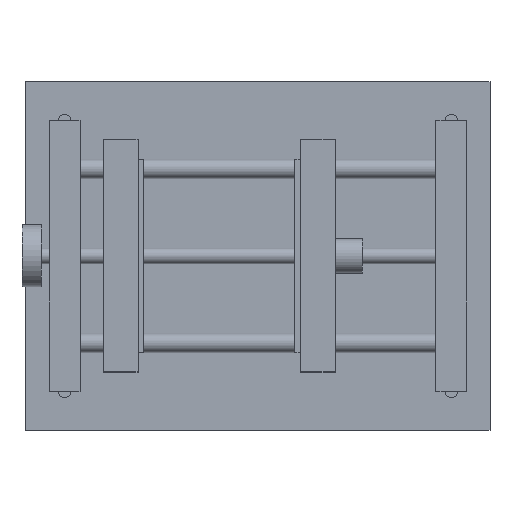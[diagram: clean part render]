
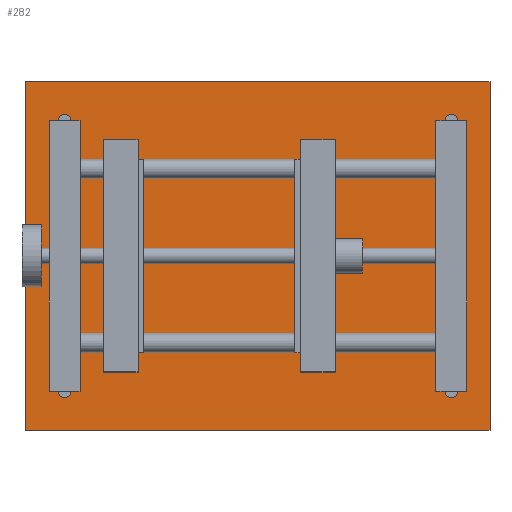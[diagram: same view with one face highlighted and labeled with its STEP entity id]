
A CAD part, top view. The second image highlights one B-rep face of the part: STEP entity #282.
In plain terms, the highlighted planar face has unit normal (0, 0, 1).
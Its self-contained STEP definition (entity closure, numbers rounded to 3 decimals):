
#93 = VERTEX_POINT('',#94);
#94 = CARTESIAN_POINT('',(0.,0.,10.));
#101 = PLANE('',#102);
#102 = AXIS2_PLACEMENT_3D('',#103,#104,#105);
#103 = CARTESIAN_POINT('',(0.,0.,0.));
#104 = DIRECTION('',(1.,0.,-0.));
#105 = DIRECTION('',(0.,0.,1.));
#113 = PLANE('',#114);
#114 = AXIS2_PLACEMENT_3D('',#115,#116,#117);
#115 = CARTESIAN_POINT('',(0.,0.,0.));
#116 = DIRECTION('',(-0.,1.,0.));
#117 = DIRECTION('',(0.,0.,1.));
#154 = VERTEX_POINT('',#155);
#155 = CARTESIAN_POINT('',(0.,180.,10.));
#169 = PLANE('',#170);
#170 = AXIS2_PLACEMENT_3D('',#171,#172,#173);
#171 = CARTESIAN_POINT('',(0.,180.,0.));
#172 = DIRECTION('',(-0.,1.,0.));
#173 = DIRECTION('',(0.,0.,1.));
#181 = EDGE_CURVE('',#93,#154,#182,.T.);
#182 = SURFACE_CURVE('',#183,(#187,#194),.PCURVE_S1.);
#183 = LINE('',#184,#185);
#184 = CARTESIAN_POINT('',(0.,0.,10.));
#185 = VECTOR('',#186,1.);
#186 = DIRECTION('',(-0.,1.,0.));
#187 = PCURVE('',#101,#188);
#188 = DEFINITIONAL_REPRESENTATION('',(#189),#193);
#189 = LINE('',#190,#191);
#190 = CARTESIAN_POINT('',(10.,0.));
#191 = VECTOR('',#192,1.);
#192 = DIRECTION('',(0.,-1.));
#193 = ( GEOMETRIC_REPRESENTATION_CONTEXT(2) 
PARAMETRIC_REPRESENTATION_CONTEXT() REPRESENTATION_CONTEXT('2D SPACE',''
  ) );
#194 = PCURVE('',#195,#200);
#195 = PLANE('',#196);
#196 = AXIS2_PLACEMENT_3D('',#197,#198,#199);
#197 = CARTESIAN_POINT('',(0.,0.,10.));
#198 = DIRECTION('',(0.,0.,1.));
#199 = DIRECTION('',(1.,0.,-0.));
#200 = DEFINITIONAL_REPRESENTATION('',(#201),#205);
#201 = LINE('',#202,#203);
#202 = CARTESIAN_POINT('',(0.,0.));
#203 = VECTOR('',#204,1.);
#204 = DIRECTION('',(0.,1.));
#205 = ( GEOMETRIC_REPRESENTATION_CONTEXT(2) 
PARAMETRIC_REPRESENTATION_CONTEXT() REPRESENTATION_CONTEXT('2D SPACE',''
  ) );
#234 = EDGE_CURVE('',#93,#235,#237,.T.);
#235 = VERTEX_POINT('',#236);
#236 = CARTESIAN_POINT('',(240.,0.,10.));
#237 = SURFACE_CURVE('',#238,(#242,#249),.PCURVE_S1.);
#238 = LINE('',#239,#240);
#239 = CARTESIAN_POINT('',(0.,0.,10.));
#240 = VECTOR('',#241,1.);
#241 = DIRECTION('',(1.,0.,-0.));
#242 = PCURVE('',#113,#243);
#243 = DEFINITIONAL_REPRESENTATION('',(#244),#248);
#244 = LINE('',#245,#246);
#245 = CARTESIAN_POINT('',(10.,0.));
#246 = VECTOR('',#247,1.);
#247 = DIRECTION('',(0.,1.));
#248 = ( GEOMETRIC_REPRESENTATION_CONTEXT(2) 
PARAMETRIC_REPRESENTATION_CONTEXT() REPRESENTATION_CONTEXT('2D SPACE',''
  ) );
#249 = PCURVE('',#195,#250);
#250 = DEFINITIONAL_REPRESENTATION('',(#251),#255);
#251 = LINE('',#252,#253);
#252 = CARTESIAN_POINT('',(0.,0.));
#253 = VECTOR('',#254,1.);
#254 = DIRECTION('',(1.,0.));
#255 = ( GEOMETRIC_REPRESENTATION_CONTEXT(2) 
PARAMETRIC_REPRESENTATION_CONTEXT() REPRESENTATION_CONTEXT('2D SPACE',''
  ) );
#271 = PLANE('',#272);
#272 = AXIS2_PLACEMENT_3D('',#273,#274,#275);
#273 = CARTESIAN_POINT('',(240.,0.,0.));
#274 = DIRECTION('',(1.,0.,-0.));
#275 = DIRECTION('',(0.,0.,1.));
#282 = ADVANCED_FACE('',(#283,#331,#362,#393,#424),#195,.T.);
#283 = FACE_BOUND('',#284,.T.);
#284 = EDGE_LOOP('',(#285,#286,#287,#310));
#285 = ORIENTED_EDGE('',*,*,#181,.F.);
#286 = ORIENTED_EDGE('',*,*,#234,.T.);
#287 = ORIENTED_EDGE('',*,*,#288,.T.);
#288 = EDGE_CURVE('',#235,#289,#291,.T.);
#289 = VERTEX_POINT('',#290);
#290 = CARTESIAN_POINT('',(240.,180.,10.));
#291 = SURFACE_CURVE('',#292,(#296,#303),.PCURVE_S1.);
#292 = LINE('',#293,#294);
#293 = CARTESIAN_POINT('',(240.,0.,10.));
#294 = VECTOR('',#295,1.);
#295 = DIRECTION('',(-0.,1.,0.));
#296 = PCURVE('',#195,#297);
#297 = DEFINITIONAL_REPRESENTATION('',(#298),#302);
#298 = LINE('',#299,#300);
#299 = CARTESIAN_POINT('',(240.,0.));
#300 = VECTOR('',#301,1.);
#301 = DIRECTION('',(0.,1.));
#302 = ( GEOMETRIC_REPRESENTATION_CONTEXT(2) 
PARAMETRIC_REPRESENTATION_CONTEXT() REPRESENTATION_CONTEXT('2D SPACE',''
  ) );
#303 = PCURVE('',#271,#304);
#304 = DEFINITIONAL_REPRESENTATION('',(#305),#309);
#305 = LINE('',#306,#307);
#306 = CARTESIAN_POINT('',(10.,0.));
#307 = VECTOR('',#308,1.);
#308 = DIRECTION('',(0.,-1.));
#309 = ( GEOMETRIC_REPRESENTATION_CONTEXT(2) 
PARAMETRIC_REPRESENTATION_CONTEXT() REPRESENTATION_CONTEXT('2D SPACE',''
  ) );
#310 = ORIENTED_EDGE('',*,*,#311,.F.);
#311 = EDGE_CURVE('',#154,#289,#312,.T.);
#312 = SURFACE_CURVE('',#313,(#317,#324),.PCURVE_S1.);
#313 = LINE('',#314,#315);
#314 = CARTESIAN_POINT('',(0.,180.,10.));
#315 = VECTOR('',#316,1.);
#316 = DIRECTION('',(1.,0.,-0.));
#317 = PCURVE('',#195,#318);
#318 = DEFINITIONAL_REPRESENTATION('',(#319),#323);
#319 = LINE('',#320,#321);
#320 = CARTESIAN_POINT('',(0.,180.));
#321 = VECTOR('',#322,1.);
#322 = DIRECTION('',(1.,0.));
#323 = ( GEOMETRIC_REPRESENTATION_CONTEXT(2) 
PARAMETRIC_REPRESENTATION_CONTEXT() REPRESENTATION_CONTEXT('2D SPACE',''
  ) );
#324 = PCURVE('',#169,#325);
#325 = DEFINITIONAL_REPRESENTATION('',(#326),#330);
#326 = LINE('',#327,#328);
#327 = CARTESIAN_POINT('',(10.,0.));
#328 = VECTOR('',#329,1.);
#329 = DIRECTION('',(0.,1.));
#330 = ( GEOMETRIC_REPRESENTATION_CONTEXT(2) 
PARAMETRIC_REPRESENTATION_CONTEXT() REPRESENTATION_CONTEXT('2D SPACE',''
  ) );
#331 = FACE_BOUND('',#332,.T.);
#332 = EDGE_LOOP('',(#333));
#333 = ORIENTED_EDGE('',*,*,#334,.F.);
#334 = EDGE_CURVE('',#335,#335,#337,.T.);
#335 = VERTEX_POINT('',#336);
#336 = CARTESIAN_POINT('',(23.3,20.,10.));
#337 = SURFACE_CURVE('',#338,(#343,#350),.PCURVE_S1.);
#338 = CIRCLE('',#339,3.3);
#339 = AXIS2_PLACEMENT_3D('',#340,#341,#342);
#340 = CARTESIAN_POINT('',(20.,20.,10.));
#341 = DIRECTION('',(0.,0.,1.));
#342 = DIRECTION('',(1.,0.,-0.));
#343 = PCURVE('',#195,#344);
#344 = DEFINITIONAL_REPRESENTATION('',(#345),#349);
#345 = CIRCLE('',#346,3.3);
#346 = AXIS2_PLACEMENT_2D('',#347,#348);
#347 = CARTESIAN_POINT('',(20.,20.));
#348 = DIRECTION('',(1.,0.));
#349 = ( GEOMETRIC_REPRESENTATION_CONTEXT(2) 
PARAMETRIC_REPRESENTATION_CONTEXT() REPRESENTATION_CONTEXT('2D SPACE',''
  ) );
#350 = PCURVE('',#351,#356);
#351 = CYLINDRICAL_SURFACE('',#352,3.3);
#352 = AXIS2_PLACEMENT_3D('',#353,#354,#355);
#353 = CARTESIAN_POINT('',(20.,20.,-1.));
#354 = DIRECTION('',(0.,0.,1.));
#355 = DIRECTION('',(1.,0.,-0.));
#356 = DEFINITIONAL_REPRESENTATION('',(#357),#361);
#357 = LINE('',#358,#359);
#358 = CARTESIAN_POINT('',(0.,11.));
#359 = VECTOR('',#360,1.);
#360 = DIRECTION('',(1.,0.));
#361 = ( GEOMETRIC_REPRESENTATION_CONTEXT(2) 
PARAMETRIC_REPRESENTATION_CONTEXT() REPRESENTATION_CONTEXT('2D SPACE',''
  ) );
#362 = FACE_BOUND('',#363,.T.);
#363 = EDGE_LOOP('',(#364));
#364 = ORIENTED_EDGE('',*,*,#365,.F.);
#365 = EDGE_CURVE('',#366,#366,#368,.T.);
#366 = VERTEX_POINT('',#367);
#367 = CARTESIAN_POINT('',(223.3,20.,10.));
#368 = SURFACE_CURVE('',#369,(#374,#381),.PCURVE_S1.);
#369 = CIRCLE('',#370,3.3);
#370 = AXIS2_PLACEMENT_3D('',#371,#372,#373);
#371 = CARTESIAN_POINT('',(220.,20.,10.));
#372 = DIRECTION('',(0.,0.,1.));
#373 = DIRECTION('',(1.,0.,-0.));
#374 = PCURVE('',#195,#375);
#375 = DEFINITIONAL_REPRESENTATION('',(#376),#380);
#376 = CIRCLE('',#377,3.3);
#377 = AXIS2_PLACEMENT_2D('',#378,#379);
#378 = CARTESIAN_POINT('',(220.,20.));
#379 = DIRECTION('',(1.,0.));
#380 = ( GEOMETRIC_REPRESENTATION_CONTEXT(2) 
PARAMETRIC_REPRESENTATION_CONTEXT() REPRESENTATION_CONTEXT('2D SPACE',''
  ) );
#381 = PCURVE('',#382,#387);
#382 = CYLINDRICAL_SURFACE('',#383,3.3);
#383 = AXIS2_PLACEMENT_3D('',#384,#385,#386);
#384 = CARTESIAN_POINT('',(220.,20.,-1.));
#385 = DIRECTION('',(0.,0.,1.));
#386 = DIRECTION('',(1.,0.,-0.));
#387 = DEFINITIONAL_REPRESENTATION('',(#388),#392);
#388 = LINE('',#389,#390);
#389 = CARTESIAN_POINT('',(0.,11.));
#390 = VECTOR('',#391,1.);
#391 = DIRECTION('',(1.,0.));
#392 = ( GEOMETRIC_REPRESENTATION_CONTEXT(2) 
PARAMETRIC_REPRESENTATION_CONTEXT() REPRESENTATION_CONTEXT('2D SPACE',''
  ) );
#393 = FACE_BOUND('',#394,.T.);
#394 = EDGE_LOOP('',(#395));
#395 = ORIENTED_EDGE('',*,*,#396,.F.);
#396 = EDGE_CURVE('',#397,#397,#399,.T.);
#397 = VERTEX_POINT('',#398);
#398 = CARTESIAN_POINT('',(23.3,160.,10.));
#399 = SURFACE_CURVE('',#400,(#405,#412),.PCURVE_S1.);
#400 = CIRCLE('',#401,3.3);
#401 = AXIS2_PLACEMENT_3D('',#402,#403,#404);
#402 = CARTESIAN_POINT('',(20.,160.,10.));
#403 = DIRECTION('',(0.,0.,1.));
#404 = DIRECTION('',(1.,0.,-0.));
#405 = PCURVE('',#195,#406);
#406 = DEFINITIONAL_REPRESENTATION('',(#407),#411);
#407 = CIRCLE('',#408,3.3);
#408 = AXIS2_PLACEMENT_2D('',#409,#410);
#409 = CARTESIAN_POINT('',(20.,160.));
#410 = DIRECTION('',(1.,0.));
#411 = ( GEOMETRIC_REPRESENTATION_CONTEXT(2) 
PARAMETRIC_REPRESENTATION_CONTEXT() REPRESENTATION_CONTEXT('2D SPACE',''
  ) );
#412 = PCURVE('',#413,#418);
#413 = CYLINDRICAL_SURFACE('',#414,3.3);
#414 = AXIS2_PLACEMENT_3D('',#415,#416,#417);
#415 = CARTESIAN_POINT('',(20.,160.,-1.));
#416 = DIRECTION('',(0.,0.,1.));
#417 = DIRECTION('',(1.,0.,-0.));
#418 = DEFINITIONAL_REPRESENTATION('',(#419),#423);
#419 = LINE('',#420,#421);
#420 = CARTESIAN_POINT('',(0.,11.));
#421 = VECTOR('',#422,1.);
#422 = DIRECTION('',(1.,0.));
#423 = ( GEOMETRIC_REPRESENTATION_CONTEXT(2) 
PARAMETRIC_REPRESENTATION_CONTEXT() REPRESENTATION_CONTEXT('2D SPACE',''
  ) );
#424 = FACE_BOUND('',#425,.T.);
#425 = EDGE_LOOP('',(#426));
#426 = ORIENTED_EDGE('',*,*,#427,.F.);
#427 = EDGE_CURVE('',#428,#428,#430,.T.);
#428 = VERTEX_POINT('',#429);
#429 = CARTESIAN_POINT('',(223.3,160.,10.));
#430 = SURFACE_CURVE('',#431,(#436,#443),.PCURVE_S1.);
#431 = CIRCLE('',#432,3.3);
#432 = AXIS2_PLACEMENT_3D('',#433,#434,#435);
#433 = CARTESIAN_POINT('',(220.,160.,10.));
#434 = DIRECTION('',(0.,0.,1.));
#435 = DIRECTION('',(1.,0.,-0.));
#436 = PCURVE('',#195,#437);
#437 = DEFINITIONAL_REPRESENTATION('',(#438),#442);
#438 = CIRCLE('',#439,3.3);
#439 = AXIS2_PLACEMENT_2D('',#440,#441);
#440 = CARTESIAN_POINT('',(220.,160.));
#441 = DIRECTION('',(1.,0.));
#442 = ( GEOMETRIC_REPRESENTATION_CONTEXT(2) 
PARAMETRIC_REPRESENTATION_CONTEXT() REPRESENTATION_CONTEXT('2D SPACE',''
  ) );
#443 = PCURVE('',#444,#449);
#444 = CYLINDRICAL_SURFACE('',#445,3.3);
#445 = AXIS2_PLACEMENT_3D('',#446,#447,#448);
#446 = CARTESIAN_POINT('',(220.,160.,-1.));
#447 = DIRECTION('',(0.,0.,1.));
#448 = DIRECTION('',(1.,0.,-0.));
#449 = DEFINITIONAL_REPRESENTATION('',(#450),#454);
#450 = LINE('',#451,#452);
#451 = CARTESIAN_POINT('',(0.,11.));
#452 = VECTOR('',#453,1.);
#453 = DIRECTION('',(1.,0.));
#454 = ( GEOMETRIC_REPRESENTATION_CONTEXT(2) 
PARAMETRIC_REPRESENTATION_CONTEXT() REPRESENTATION_CONTEXT('2D SPACE',''
  ) );
